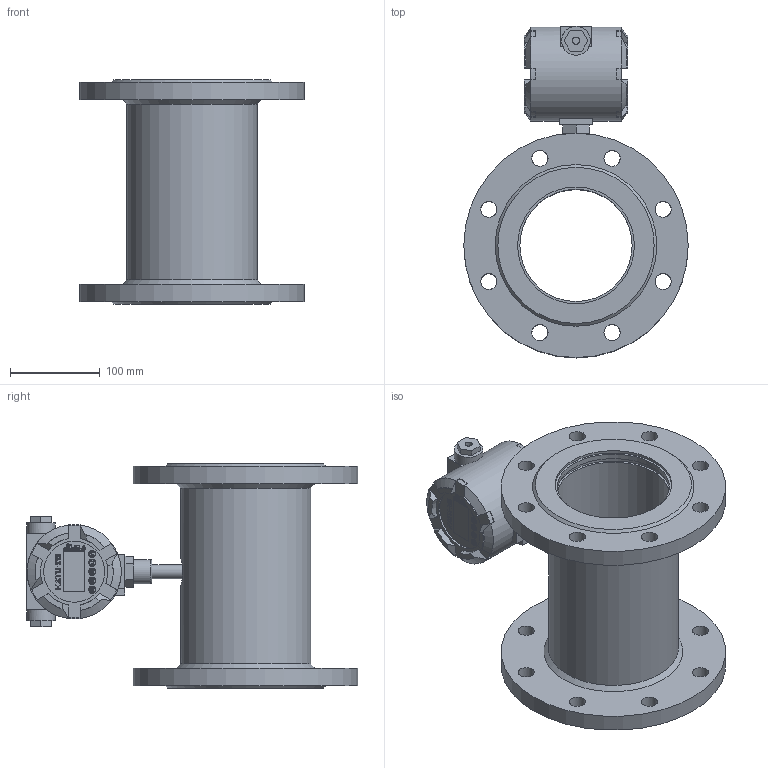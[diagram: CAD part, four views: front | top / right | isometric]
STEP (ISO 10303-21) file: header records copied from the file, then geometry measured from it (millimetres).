
FILE_DESCRIPTION( (''), '2;1');
FILE_NAME( 'QTKC_DN125_flange_Ex.step', '2024-10-14T10:35:12+08:00', (''), (''), '', '', '');
FILE_SCHEMA (('AUTOMOTIVE_DESIGN { 1 0 10303 214 3 1 1 1 }'));
Length unit declared in the file: millimetre
Products named in the file (1): QTKC DN125_flange_Ex
Bounding box: 250 x 369.5 x 250 mm (x, y, z)
Volume: 3209663.6 mm3; surface area: 451773.6 mm2
Topology: 4 solids, 4 shells, 1345 faces, 3692 edges, 2464 vertices
Faces by surface type: plane 728, extrusion 504, cylinder 88, cone 17, torus 6, bspline 2
Full cylindrical faces by diameter (mm): 3.3 x1, 8 x2, 16 x1, 16.5 x1, 18 x16, 18.5 x1, 20 x2, 27 x1, 32 x2, 68 x1, 105 x1, 125 x3, 130 x4, 145 x1, 250 x2
Entity records: 44626 total; most frequent: CARTESIAN_POINT 12667, ORIENTED_EDGE 7210, DIRECTION 4917, EDGE_CURVE 3605, VECTOR 2783, VERTEX_POINT 2428, LINE 2279, B_SPLINE_CURVE_WITH_KNOTS 1603
